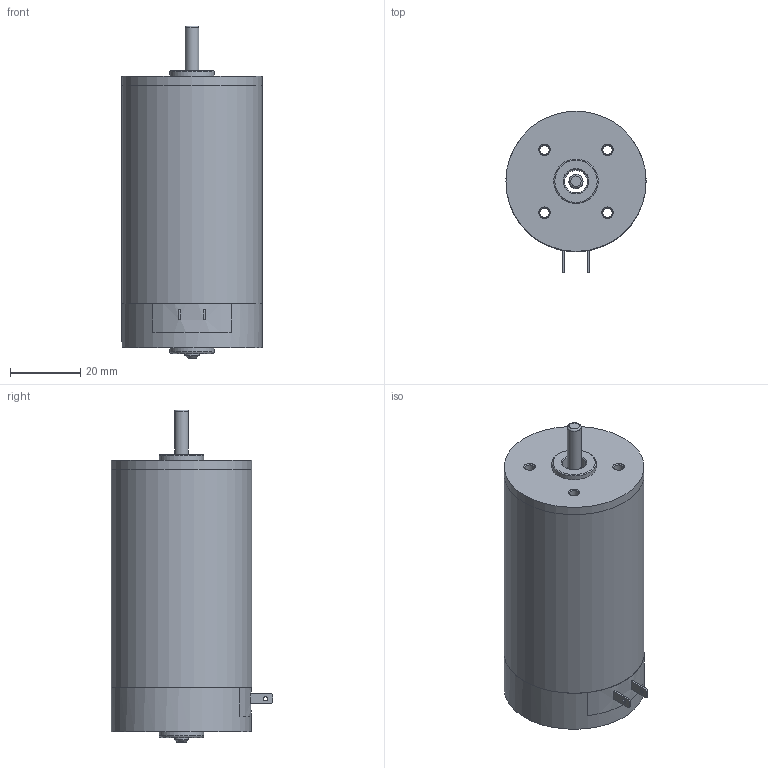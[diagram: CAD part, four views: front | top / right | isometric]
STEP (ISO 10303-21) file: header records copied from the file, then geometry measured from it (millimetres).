
FILE_DESCRIPTION((''),'2;1');
FILE_NAME('D:\연구개발부2팀 1파트\10_진행업무\3D\RM4_SERIES\RM46ㅁBT.stp','2014-06-23T10:36:14',('song'),(''),'Autodesk Inventor 2011','Autodesk Inventor 2011','');
FILE_SCHEMA(('AUTOMOTIVE_DESIGN { 1 0 10303 214 1 1 1 1 }'));
Length unit declared in the file: millimetre
Products named in the file (8): RM46ㅁBT; REAR_HOUSING__ASS'Y_TERMINAL; RM4TYPE_BRUSH_BRAKET_TERMINAL; RM4TYPE_REAR_HOUSING; RM4TYPE_FRONT_HOUSING_; RM4TYPE_PIPE_HOUSING_pi40XL62.4; RM46TYPE_SHAFT; AS 1427 Z - 미터 M3.5 x 5
Assembly tree (7 placements, depth 2):
  RM46ㅁBT
    RM4TYPE_FRONT_HOUSING_
    RM4TYPE_PIPE_HOUSING_pi40XL62.4
    RM46TYPE_SHAFT
    AS 1427 Z - 미터 M3.5 x 5  x2
  REAR_HOUSING__ASS'Y_TERMINAL
    RM4TYPE_BRUSH_BRAKET_TERMINAL
    RM4TYPE_REAR_HOUSING
Bounding box: 40 x 46 x 94.74 mm (x, y, z)
Volume: 25601.1 mm3; surface area: 25548.4 mm2
Topology: 7 solids, 7 shells, 158 faces, 389 edges, 250 vertices
Faces by surface type: plane 73, cone 44, cylinder 30, torus 11
Full cylindrical faces by diameter (mm): 1.2 x2, 2.7 x4, 2.8 x4, 3.132 x2, 3.5 x2, 3.7 x2, 3.969 x1, 4 x1, 6.1 x2, 6.5 x1, 6.65 x1, 12.7 x2, 36.5 x1, 40 x3
Entity records: 3606 total; most frequent: CARTESIAN_POINT 771, DIRECTION 562, ORIENTED_EDGE 458, AXIS2_PLACEMENT_3D 236, EDGE_CURVE 229, EDGE_LOOP 196, VERTEX_POINT 173, FACE_OUTER_BOUND 117
